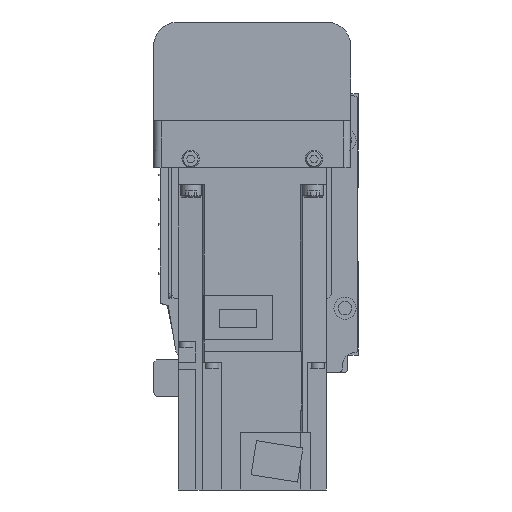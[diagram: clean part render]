
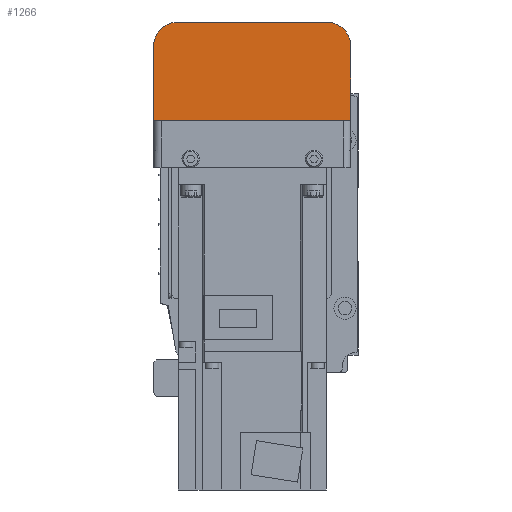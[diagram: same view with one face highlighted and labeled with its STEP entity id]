
A CAD part, left-side view. The second image highlights one B-rep face of the part: STEP entity #1266.
In plain terms, the highlighted planar face has unit normal (-1, 0, 0).
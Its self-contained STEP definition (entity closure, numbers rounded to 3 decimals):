
#1266 = ADVANCED_FACE( '', ( #2999 ), #3000, .F. );
#2999 = FACE_OUTER_BOUND( '', #5343, .T. );
#3000 = PLANE( '', #5344 );
#5343 = EDGE_LOOP( '', ( #8892, #8893, #8894, #8895, #8896, #8897 ) );
#5344 = AXIS2_PLACEMENT_3D( '', #8898, #8899, #8900 );
#8892 = ORIENTED_EDGE( '', *, *, #14333, .F. );
#8893 = ORIENTED_EDGE( '', *, *, #14467, .F. );
#8894 = ORIENTED_EDGE( '', *, *, #14468, .F. );
#8895 = ORIENTED_EDGE( '', *, *, #14303, .F. );
#8896 = ORIENTED_EDGE( '', *, *, #14469, .F. );
#8897 = ORIENTED_EDGE( '', *, *, #14470, .F. );
#8898 = CARTESIAN_POINT( '', ( -192., 37., 7. ) );
#8899 = DIRECTION( '', ( 1., 0., 0. ) );
#8900 = DIRECTION( '', ( 0., 0., -1. ) );
#14303 = EDGE_CURVE( '', #17430, #17432, #17433, .T. );
#14333 = EDGE_CURVE( '', #17478, #17480, #17481, .T. );
#14467 = EDGE_CURVE( '', #17694, #17478, #17695, .T. );
#14468 = EDGE_CURVE( '', #17432, #17694, #17696, .T. );
#14469 = EDGE_CURVE( '', #17697, #17430, #17698, .T. );
#14470 = EDGE_CURVE( '', #17480, #17697, #17699, .T. );
#17430 = VERTEX_POINT( '', #21582 );
#17432 = VERTEX_POINT( '', #21585 );
#17433 = LINE( '', #21586, #21587 );
#17478 = VERTEX_POINT( '', #21652 );
#17480 = VERTEX_POINT( '', #21655 );
#17481 = LINE( '', #21656, #21657 );
#17694 = VERTEX_POINT( '', #21962 );
#17695 = LINE( '', #21963, #21964 );
#17696 = CIRCLE( '', #21965, 10. );
#17697 = VERTEX_POINT( '', #21966 );
#17698 = CIRCLE( '', #21967, 10. );
#17699 = LINE( '', #21968, #21969 );
#21582 = CARTESIAN_POINT( '', ( -192., -30., -52. ) );
#21585 = CARTESIAN_POINT( '', ( -192., 30., -52. ) );
#21586 = CARTESIAN_POINT( '', ( -192., -30., -52. ) );
#21587 = VECTOR( '', #25577, 1000. );
#21652 = CARTESIAN_POINT( '', ( -192., 40., -12.1 ) );
#21655 = CARTESIAN_POINT( '', ( -192., -40., -12.1 ) );
#21656 = CARTESIAN_POINT( '', ( -192., 50., -12.1 ) );
#21657 = VECTOR( '', #25608, 1000. );
#21962 = CARTESIAN_POINT( '', ( -192., 40., -42. ) );
#21963 = CARTESIAN_POINT( '', ( -192., 40., -42. ) );
#21964 = VECTOR( '', #25758, 1000. );
#21965 = AXIS2_PLACEMENT_3D( '', #25759, #25760, #25761 );
#21966 = CARTESIAN_POINT( '', ( -192., -40., -42. ) );
#21967 = AXIS2_PLACEMENT_3D( '', #25762, #25763, #25764 );
#21968 = CARTESIAN_POINT( '', ( -192., -40., -12.1 ) );
#21969 = VECTOR( '', #25765, 1000. );
#25577 = DIRECTION( '', ( 0., 1., 0. ) );
#25608 = DIRECTION( '', ( 0., -1., 0. ) );
#25758 = DIRECTION( '', ( 0., 0., 1. ) );
#25759 = CARTESIAN_POINT( '', ( -192., 30., -42. ) );
#25760 = DIRECTION( '', ( 1., 0., 0. ) );
#25761 = DIRECTION( '', ( 0., 0., -1. ) );
#25762 = CARTESIAN_POINT( '', ( -192., -30., -42. ) );
#25763 = DIRECTION( '', ( 1., 0., 0. ) );
#25764 = DIRECTION( '', ( 0., 0., -1. ) );
#25765 = DIRECTION( '', ( 0., 0., -1. ) );
